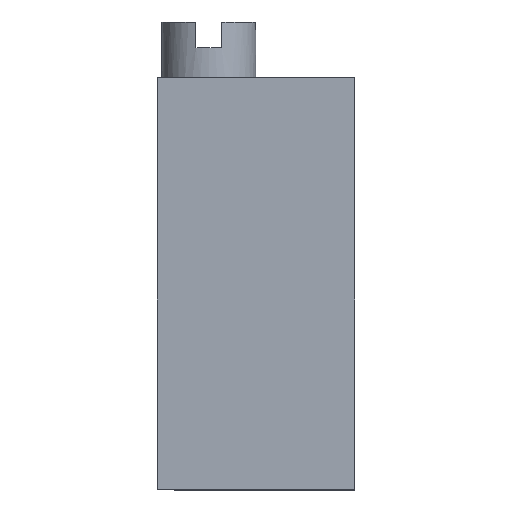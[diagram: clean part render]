
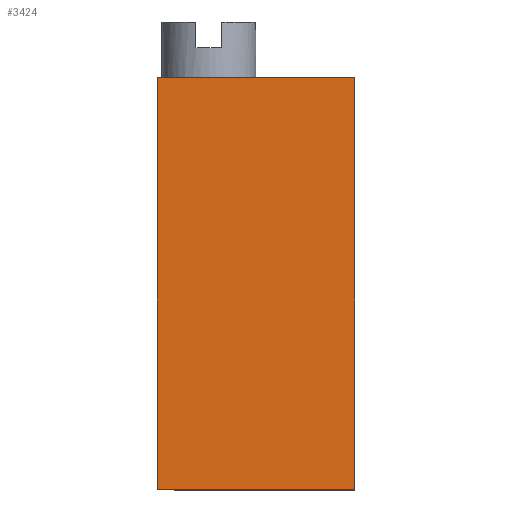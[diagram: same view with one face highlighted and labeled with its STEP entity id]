
A CAD part, top view. The second image highlights one B-rep face of the part: STEP entity #3424.
In plain terms, the highlighted planar face has unit normal (0, 0, 1).
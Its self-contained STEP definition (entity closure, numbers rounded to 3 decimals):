
#401=ORIENTED_EDGE('',*,*,#1135,.F.);
#402=ORIENTED_EDGE('',*,*,#1131,.F.);
#403=ORIENTED_EDGE('',*,*,#1136,.T.);
#404=ORIENTED_EDGE('',*,*,#1004,.T.);
#1004=EDGE_CURVE('',#1375,#1373,#1623,.T.);
#1131=EDGE_CURVE('',#1496,#1497,#1648,.T.);
#1135=EDGE_CURVE('',#1497,#1373,#1652,.T.);
#1136=EDGE_CURVE('',#1496,#1375,#1653,.T.);
#1373=VERTEX_POINT('',#4150);
#1375=VERTEX_POINT('',#4153);
#1496=VERTEX_POINT('',#4732);
#1497=VERTEX_POINT('',#4734);
#1623=LINE('',#4152,#1768);
#1648=LINE('',#4733,#1793);
#1652=LINE('',#4740,#1797);
#1653=LINE('',#4741,#1798);
#1768=VECTOR('',#3717,1000.);
#1793=VECTOR('',#3766,1000.);
#1797=VECTOR('',#3772,1000.);
#1798=VECTOR('',#3773,1000.);
#1934=EDGE_LOOP('',(#401,#402,#403,#404));
#2105=FACE_BOUND('',#1934,.T.);
#2261=PLANE('',#3581);
#3424=ADVANCED_FACE('',(#2105),#2261,.T.);
#3581=AXIS2_PLACEMENT_3D('',#4739,#3770,#3771);
#3717=DIRECTION('',(0.,-1.,0.));
#3766=DIRECTION('',(0.,-1.,0.));
#3770=DIRECTION('',(0.,0.,1.));
#3771=DIRECTION('',(1.,0.,0.));
#3772=DIRECTION('',(-1.,0.,0.));
#3773=DIRECTION('',(-1.,0.,0.));
#4150=CARTESIAN_POINT('',(-2.3,0.,4.85));
#4152=CARTESIAN_POINT('',(-2.3,9.6,4.85));
#4153=CARTESIAN_POINT('',(-2.3,9.6,4.85));
#4732=CARTESIAN_POINT('',(2.3,9.6,4.85));
#4733=CARTESIAN_POINT('',(2.3,9.6,4.85));
#4734=CARTESIAN_POINT('',(2.3,0.,4.85));
#4739=CARTESIAN_POINT('',(2.3,9.6,4.85));
#4740=CARTESIAN_POINT('',(2.3,0.,4.85));
#4741=CARTESIAN_POINT('',(2.3,9.6,4.85));
